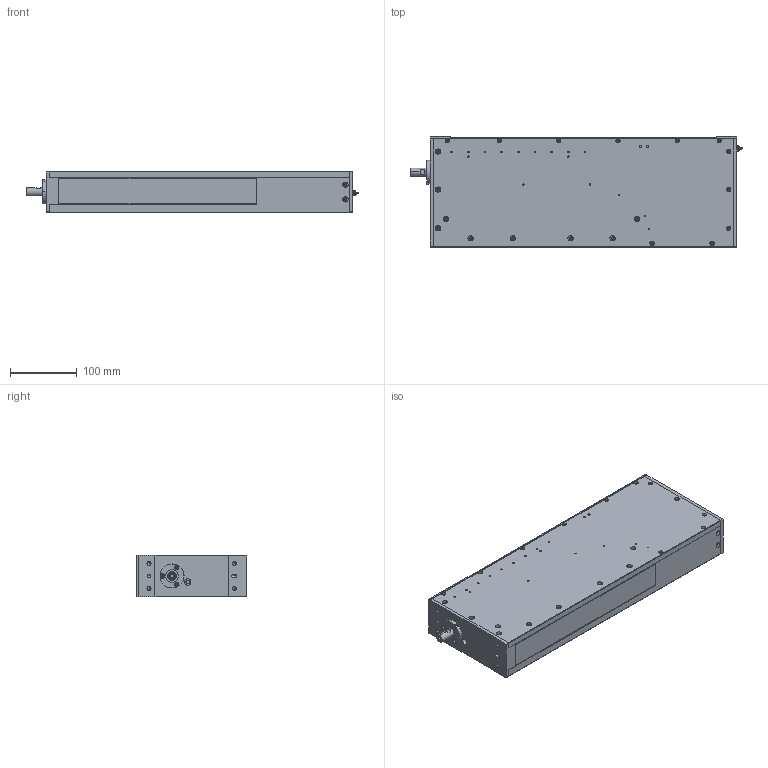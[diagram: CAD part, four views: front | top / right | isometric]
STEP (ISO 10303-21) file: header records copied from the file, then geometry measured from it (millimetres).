
FILE_DESCRIPTION (( 'STEP AP203' ), '1' );
FILE_NAME ('LBR62-150-XX-3_A_STD CON.STEP', '2020-07-24T22:54:35', ( '' ), ( '' ), 'SwSTEP 2.0', 'SolidWorks 2020', '' );
FILE_SCHEMA (( 'CONFIG_CONTROL_DESIGN' ));
Length unit declared in the file: millimetre
Products named in the file (16): 180109-01_B; 22525-01_D; 230126-150_C; 140276-01_A; 110120-150_C; LBR62-150-XX-3_A_STD CON; 110139-01_A; 110121-150_C; 47014-00_A; 230126-151_C; 56002-01, JACK SCREW, 4-40X3_16; 406271-34_A_STEP; 210130-01_A; 22525-06_A; 48002-00_A; 110118-02_D
Assembly tree (16 placements, depth 4):
  LBR62-150-XX-3_A_STD CON
    110118-02_D
    180109-01_B
    406271-34_A_STEP
      110139-01_A
      22525-06_A
        22525-01_D
      56002-01, JACK SCREW, 4-40X3_16  x2
      47014-00_A
    140276-01_A
    48002-00_A
    110120-150_C
    110121-150_C
    230126-150_C
    230126-151_C
    210130-01_A
Bounding box: 498 x 165 x 62.01 mm (x, y, z)
Volume: 1873910.5 mm3; surface area: 608085.9 mm2
Topology: 14 solids, 14 shells, 1512 faces, 3703 edges, 2267 vertices
Faces by surface type: cylinder 751, cone 419, plane 332, bspline 10
Entity records: 45225 total; most frequent: CARTESIAN_POINT 8746, DIRECTION 7798, ORIENTED_EDGE 6784, EDGE_CURVE 3392, AXIS2_PLACEMENT_3D 3108, VERTEX_POINT 2145, EDGE_LOOP 1879, CIRCLE 1654
